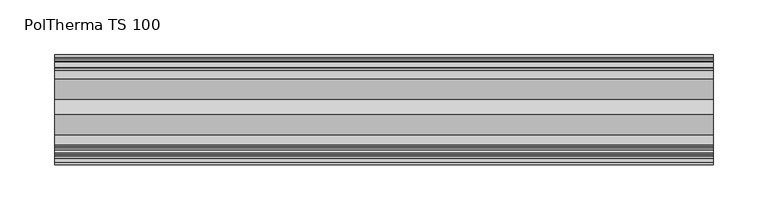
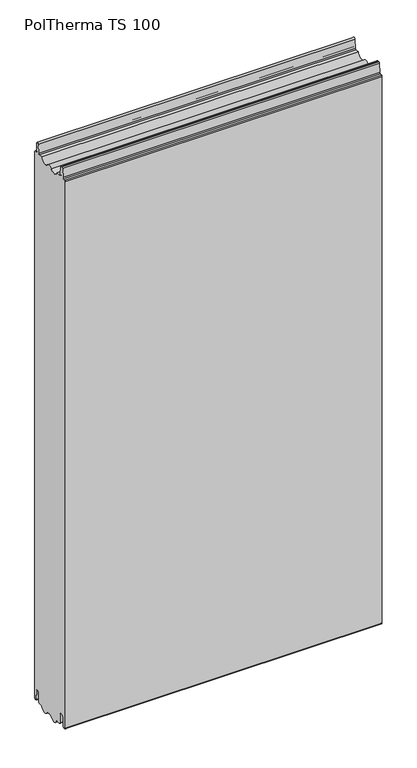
"""IFC4 building model written with IfcOpenShell, lengths in millimetres: plate geometry, Europanels_Poltherma TS_Hz : PolTherma TS 100."""

import ifcopenshell
import ifcopenshell.guid

model = None  # the IFC model being written
_history = None  # IfcOwnerHistory: only IFC2X3 demands one
_inside = {}  # id of a spatial element -> (the spatial element, [elements in it])
_under = {}  # id of a project, library or spatial element -> (it, [spatial elements below it])
_declared = {}  # id of a project -> (the project, [libraries it declares])
_typed = {}  # id of a type object -> (the type object, [elements of that type])
_made_of = {}  # id of a material, layer set ... -> (it, [elements and type objects made of it])


def new_model(schema):
    """Start an empty IFC model of exactly this schema.

    Asked for "IFC4X3", IfcOpenShell would pick the latest addendum, in which some entities
    have other attributes; the version numbers below select the first issue.
    IFC2X3 requires an IfcOwnerHistory on every rooted entity: one is made here for all.
    """
    global model, _history
    if schema == "IFC4X3":
        model = ifcopenshell.file(schema_version=(4, 3, 0, 0))
    else:
        model = ifcopenshell.file(schema=schema)
    _inside.clear()
    _under.clear()
    _declared.clear()
    _typed.clear()
    _made_of.clear()
    _history = None
    if model.schema == "IFC2X3":
        org = make("IfcOrganization", Name="unknown")
        user = make(
            "IfcPersonAndOrganization",
            ThePerson=make("IfcPerson", FamilyName="unknown"),
            TheOrganization=org,
        )
        app = make(
            "IfcApplication",
            ApplicationDeveloper=org,
            Version="unknown",
            ApplicationFullName="unknown",
            ApplicationIdentifier="unknown",
        )
        _history = make(
            "IfcOwnerHistory",
            OwningUser=user,
            OwningApplication=app,
            ChangeAction="ADDED",
            CreationDate=0,
        )
    return model


def make(cls, **values):
    """One entity of the class cls with the attributes given. An attribute that is None is left unset."""
    return model.create_entity(
        cls, **{name: value for name, value in values.items() if value is not None}
    )


def rooted(cls, **values):
    """An entity with a GlobalId (a new one), such as an element, a storey or a relation."""
    return make(cls, GlobalId=ifcopenshell.guid.new(), OwnerHistory=_history, **values)


def si_unit(unit_type, name, prefix=None):
    """IfcSIUnit, for example si_unit("LENGTHUNIT", "METRE", prefix="MILLI")."""
    return make("IfcSIUnit", UnitType=unit_type, Prefix=prefix, Name=name)


def assignment(units):
    """IfcUnitAssignment: the units of a project."""
    return None if units is None else make("IfcUnitAssignment", Units=units)


def point(xyz):
    """IfcCartesianPoint."""
    return None if xyz is None else make("IfcCartesianPoint", Coordinates=xyz)


def direction(xyz):
    """IfcDirection."""
    return None if xyz is None else make("IfcDirection", DirectionRatios=xyz)


def frame(location, z_axis=None, x_axis=None):
    """IfcAxis2Placement3D, a coordinate frame: its origin and axes. An axis left out is left unset."""
    return make(
        "IfcAxis2Placement3D",
        Location=point(location),
        Axis=direction(z_axis),
        RefDirection=direction(x_axis),
    )


def frame_2d(location, x_axis=None):
    """IfcAxis2Placement2D, a coordinate frame in the plane: its origin and x axis."""
    return make(
        "IfcAxis2Placement2D", Location=point(location), RefDirection=direction(x_axis)
    )


def origin():
    """The frame at (0, 0, 0) with its axes left unset."""
    return frame((0.0, 0.0, 0.0))


def place(relative_to, where):
    """IfcLocalPlacement: puts the frame where relative to a parent placement (None: the world)."""
    return make(
        "IfcLocalPlacement", PlacementRelTo=relative_to, RelativePlacement=where
    )


def context(
    kind, dimensions, precision=None, world=None, true_north=None, identifier=None
):
    """IfcGeometricRepresentationContext, for example the 3D "Model" context."""
    return make(
        "IfcGeometricRepresentationContext",
        ContextIdentifier=identifier,
        ContextType=kind,
        CoordinateSpaceDimension=dimensions,
        Precision=precision,
        WorldCoordinateSystem=world,
        TrueNorth=true_north,
    )


def project(units=None, contexts=None):
    """IfcProject with its units and contexts."""
    return rooted(
        "IfcProject",
        Name="project",
        RepresentationContexts=contexts,
        UnitsInContext=assignment(units),
    )


def spatial(cls, under=None, at=None, **own):
    """A site, building, storey or space (cls), placed at a placement, below another one or the project."""
    s = rooted(cls, ObjectPlacement=at, **own)
    if under is not None:
        _under.setdefault(under.id(), (under, []))[1].append(s)
    return s


def polyline(points):
    """IfcPolyline through the points."""
    return make("IfcPolyline", Points=[point(p) for p in points])


def circle_curve(where, radius):
    """IfcCircle in the frame where."""
    return make("IfcCircle", Position=where, Radius=radius)


def trimmed(basis, trim1, trim2, sense, master):
    """IfcTrimmedCurve: the piece of a basis curve between two trims."""
    return make(
        "IfcTrimmedCurve",
        BasisCurve=basis,
        Trim1=trim1,
        Trim2=trim2,
        SenseAgreement=sense,
        MasterRepresentation=master,
    )


def segment(curve, same_sense, transition):
    """IfcCompositeCurveSegment."""
    return make(
        "IfcCompositeCurveSegment",
        Transition=transition,
        SameSense=same_sense,
        ParentCurve=curve,
    )


def composite_curve(segments, self_intersect=None):
    """IfcCompositeCurve: segments joined end to end."""
    return make("IfcCompositeCurve", Segments=segments, SelfIntersect=self_intersect)


def outline(outer, holes=None, kind="AREA"):
    """IfcArbitraryClosedProfileDef: a profile drawn as a closed curve; with holes, ...WithVoids."""
    if holes is None:
        return make("IfcArbitraryClosedProfileDef", ProfileType=kind, OuterCurve=outer)
    return make(
        "IfcArbitraryProfileDefWithVoids",
        ProfileType=kind,
        OuterCurve=outer,
        InnerCurves=holes,
    )


def extrude(swept, where, along, depth):
    """IfcExtrudedAreaSolid: the profile swept, set in the frame where, extruded along a direction by depth."""
    return make(
        "IfcExtrudedAreaSolid",
        SweptArea=swept,
        Position=where,
        ExtrudedDirection=direction(along),
        Depth=depth,
    )


def shape(context_of_items, identifier, shape_type, items):
    """IfcShapeRepresentation: the items that make up one representation, for example the "Body"."""
    return make(
        "IfcShapeRepresentation",
        ContextOfItems=context_of_items,
        RepresentationIdentifier=identifier,
        RepresentationType=shape_type,
        Items=items,
    )


def source(mapping_origin, context_of_items, identifier, shape_type, items):
    """IfcRepresentationMap: a shape defined once, which mapped items show again and again."""
    return make(
        "IfcRepresentationMap",
        MappingOrigin=mapping_origin,
        MappedRepresentation=shape(context_of_items, identifier, shape_type, items),
    )


def transform(
    local_origin,
    x_axis=None,
    y_axis=None,
    z_axis=None,
    scale=None,
    scale2=None,
    scale3=None,
    uniform=True,
):
    """IfcCartesianTransformationOperator3D, or its non-uniform kind. x_axis, y_axis, z_axis: its Axis1, 2, 3."""
    if uniform:
        return make(
            "IfcCartesianTransformationOperator3D",
            Axis1=direction(x_axis),
            Axis2=direction(y_axis),
            LocalOrigin=point(local_origin),
            Scale=scale,
            Axis3=direction(z_axis),
        )
    return make(
        "IfcCartesianTransformationOperator3DnonUniform",
        Axis1=direction(x_axis),
        Axis2=direction(y_axis),
        LocalOrigin=point(local_origin),
        Scale=scale,
        Axis3=direction(z_axis),
        Scale2=scale2,
        Scale3=scale3,
    )


def mapped(mapping_source, mapping_target):
    """IfcMappedItem: shows the shape of a source again, moved by a transform."""
    return make(
        "IfcMappedItem", MappingSource=mapping_source, MappingTarget=mapping_target
    )


def made_of(thing, what):
    """Note that an element or type object is made of a material, layer set ...; save() writes the relation."""
    if what is not None:
        _made_of.setdefault(what.id(), (what, []))[1].append(thing)
    return thing


def element(
    cls,
    number,
    at=None,
    inside=None,
    cuts=None,
    type_object=None,
    material=None,
    context=None,
    identifier="Body",
    shape_type=None,
    held_by="IfcProductDefinitionShape",
    body=None,
    shapes=None,
    **own,
):
    """One element of the class cls, such as IfcWall. Its Tag is "e" and its number.

    at: its placement. inside: the storey or other place that contains it. cuts: it is an
    opening in that element (IfcRelVoidsElement). A single representation is given by context,
    identifier, shape_type and body (its items); several are given by shapes. held_by: the class
    of the entity that holds the representations. save() writes the other relations.
    """
    e = rooted(cls, Tag="e%d" % number, ObjectPlacement=at, **own)
    if body is not None:
        shapes = [shape(context, identifier, shape_type, body)]
    if shapes is not None:
        e.Representation = make(held_by, Representations=shapes)
    if inside is not None:
        _inside.setdefault(inside.id(), (inside, []))[1].append(e)
    if cuts is not None:
        rooted(
            "IfcRelVoidsElement", RelatingBuildingElement=cuts, RelatedOpeningElement=e
        )
    if type_object is not None:
        _typed.setdefault(type_object.id(), (type_object, []))[1].append(e)
    return made_of(e, material)


def aggregate(whole, parts):
    """IfcRelAggregates: a whole, such as a stair, and the parts it consists of."""
    return rooted("IfcRelAggregates", RelatingObject=whole, RelatedObjects=parts)


def save(model, path):
    """Write the relations noted so far, then the file.

    IfcRelAggregates (storeys below a building ...), IfcRelContainedInSpatialStructure (elements
    in a storey), IfcRelDefinesByType, IfcRelAssociatesMaterial and IfcRelDeclares: one each for
    every whole, place, type object, material and project.
    """
    for whole, parts in _under.values():
        aggregate(whole, parts)
    for where, things in _inside.values():
        rooted(
            "IfcRelContainedInSpatialStructure",
            RelatedElements=things,
            RelatingStructure=where,
        )
    for kind, things in _typed.values():
        rooted("IfcRelDefinesByType", RelatedObjects=things, RelatingType=kind)
    for what, things in _made_of.values():
        rooted("IfcRelAssociatesMaterial", RelatedObjects=things, RelatingMaterial=what)
    for by, libraries in _declared.values():
        rooted("IfcRelDeclares", RelatingContext=by, RelatedDefinitions=libraries)
    model.write(path)


def poltherma_ts_100_6033b162(model_context):
    return source(origin(), model_context, "Body", "SweptSolid", [
        extrude(outline(composite_curve([segment(trimmed(circle_curve(frame_2d((-48.0, 1096.5011047)), 2.0), [point((-50.0, 1096.5011047))], [point((-48.0, 1098.5011047))], False, "CARTESIAN"), True, "CONTINUOUS"), segment(polyline([(-48.0, 1098.5011047), (-44.244573, 1098.5011047)]), True, "CONTINUOUS"), segment(trimmed(circle_curve(frame_2d((-44.244573, 1100.5011047)), 2.0), [point((-44.244573, 1098.5011047))], [point((-42.2483736, 1100.3778643))], True, "CARTESIAN"), True, "CONTINUOUS"), segment(polyline([(-42.2483736, 1100.3778643), (-41.1836192, 1117.624345)]), True, "CONTINUOUS"), segment(trimmed(circle_curve(frame_2d((-39.1874198, 1117.5011047)), 2.0), [point((-41.1836192, 1117.624345))], [point((-39.1874198, 1119.5011047))], False, "CARTESIAN"), True, "CONTINUOUS"), segment(polyline([(-39.1874198, 1119.5011047), (-36.4480373, 1119.5011047)]), True, "CONTINUOUS"), segment(trimmed(circle_curve(frame_2d((-36.4480373, 1117.5011047)), 2.0), [point((-36.4480373, 1119.5011047))], [point((-34.4498501, 1117.5862394))], False, "CARTESIAN"), True, "CONTINUOUS"), segment(polyline([(-34.4498501, 1117.5862394), (-33.7101357, 1100.2244834)]), True, "CONTINUOUS"), segment(trimmed(circle_curve(frame_2d((-31.9117672, 1100.3011047)), 1.8), [point((-33.7101357, 1100.2244834))], [point((-31.9117672, 1098.5011047))], True, "CARTESIAN"), True, "CONTINUOUS"), segment(polyline([(-31.9117672, 1098.5011047), (-22.9234285, 1098.5011047)]), True, "CONTINUOUS"), segment(trimmed(circle_curve(frame_2d((-12.3, 1101.354658)), 11.0), [point((-22.9234285, 1098.5011047))], [point((-4.05, 1094.0788419))], True, "CARTESIAN"), True, "CONTINUOUS"), segment(trimmed(circle_curve(frame_2d((2.7, 1088.1259015)), 9.0), [point((-4.05, 1094.0788419))], [point((9.45, 1094.0788419))], False, "CARTESIAN"), True, "CONTINUOUS"), segment(trimmed(circle_curve(frame_2d((17.7, 1101.354658)), 11.0), [point((9.45, 1094.0788419))], [point((28.3234285, 1098.5011047))], True, "CARTESIAN"), True, "CONTINUOUS"), segment(polyline([(28.3234285, 1098.5011047), (36.113894, 1098.5011047)]), True, "CONTINUOUS"), segment(trimmed(circle_curve(frame_2d((36.113894, 1100.5011047)), 2.0), [point((36.113894, 1098.5011047))], [point((38.1120505, 1100.4152514))], True, "CARTESIAN"), True, "CONTINUOUS"), segment(polyline([(38.1120505, 1100.4152514), (38.8418822, 1117.4014159)]), True, "CONTINUOUS"), segment(trimmed(circle_curve(frame_2d((41.019533, 1117.3078504)), 2.1796599), [point((38.8418822, 1117.4014159))], [point((43.1949638, 1117.4435621))], False, "CARTESIAN"), True, "CONTINUOUS"), segment(polyline([(43.1949638, 1117.4435621), (44.2596673, 1100.3765791)]), True, "CONTINUOUS"), segment(trimmed(circle_curve(frame_2d((46.2557869, 1100.5011047)), 2.0), [point((44.2596673, 1100.3765791))], [point((46.2557869, 1098.5011047))], True, "CARTESIAN"), True, "CONTINUOUS"), segment(polyline([(46.2557869, 1098.5011047), (48.0, 1098.5011047)]), True, "CONTINUOUS"), segment(trimmed(circle_curve(frame_2d((48.0, 1096.5011047)), 2.0), [point((48.0, 1098.5011047))], [point((50.0, 1096.5011047))], False, "CARTESIAN"), True, "CONTINUOUS"), segment(polyline([(50.0, 1096.5011047), (50.0, 3.8418901)]), True, "CONTINUOUS"), segment(trimmed(circle_curve(frame_2d((47.632528, 3.8418901)), 2.367472), [point((50.0, 3.8418901))], [point((45.2685131, 3.7139946))], False, "CARTESIAN"), True, "CONTINUOUS"), segment(polyline([(45.2685131, 3.7139946), (44.3287441, 21.084649)]), True, "CONTINUOUS"), segment(trimmed(circle_curve(frame_2d((41.0497127, 20.9072503)), 3.2838266), [point((44.3287441, 21.084649))], [point((37.7713293, 21.0962469))], True, "CARTESIAN"), True, "CONTINUOUS"), segment(polyline([(37.7713293, 21.0962469), (36.7366349, 3.1481762)]), True, "CONTINUOUS"), segment(trimmed(circle_curve(frame_2d((34.9895357, 3.2488953)), 1.75), [point((36.7366349, 3.1481762))], [point((34.9895357, 1.4988953))], False, "CARTESIAN"), True, "CONTINUOUS"), segment(polyline([(34.9895357, 1.4988953), (27.5267156, 1.4988953)]), True, "CONTINUOUS"), segment(trimmed(circle_curve(frame_2d((17.7, 3.3524487)), 10.0), [point((27.5267156, 1.4988953))], [point((10.2, -3.2619295))], False, "CARTESIAN"), True, "CONTINUOUS"), segment(trimmed(circle_curve(frame_2d((2.7, -9.8763078)), 10.0), [point((10.2, -3.2619295))], [point((-4.8, -3.2619295))], True, "CARTESIAN"), True, "CONTINUOUS"), segment(trimmed(circle_curve(frame_2d((-12.3, 3.3524487)), 10.0), [point((-4.8, -3.2619295))], [point((-22.1267156, 1.4988953))], False, "CARTESIAN"), True, "CONTINUOUS"), segment(polyline([(-22.1267156, 1.4988953), (-30.5507777, 1.4988953)]), True, "CONTINUOUS"), segment(trimmed(circle_curve(frame_2d((-30.5507777, 3.2988953)), 1.8), [point((-30.5507777, 1.4988953))], [point((-32.3477941, 3.1952985))], False, "CARTESIAN"), True, "CONTINUOUS"), segment(polyline([(-32.3477941, 3.1952985), (-33.3842966, 21.1747334)]), True, "CONTINUOUS"), segment(trimmed(circle_curve(frame_2d((-36.3793238, 21.0020721)), 3.0), [point((-33.3842966, 21.1747334))], [point((-36.3793238, 24.0020721))], True, "CARTESIAN"), True, "CONTINUOUS"), segment(polyline([(-36.3793238, 24.0020721), (-39.3209015, 24.0020721)]), True, "CONTINUOUS"), segment(trimmed(circle_curve(frame_2d((-39.3209015, 21.0020721)), 3.0), [point((-39.3209015, 24.0020721))], [point((-42.3165207, 21.1641379))], True, "CARTESIAN"), True, "CONTINUOUS"), segment(polyline([(-42.3165207, 21.1641379), (-43.2780726, 3.3908514)]), True, "CONTINUOUS"), segment(trimmed(circle_curve(frame_2d((-45.2751521, 3.4988953)), 2.0), [point((-43.2780726, 3.3908514))], [point((-45.2751521, 1.4988953))], False, "CARTESIAN"), True, "CONTINUOUS"), segment(polyline([(-45.2751521, 1.4988953), (-48.0, 1.4988953)]), True, "CONTINUOUS"), segment(trimmed(circle_curve(frame_2d((-48.0, 3.4988953)), 2.0), [point((-48.0, 1.4988953))], [point((-50.0, 3.4988953))], False, "CARTESIAN"), True, "CONTINUOUS"), segment(polyline([(-50.0, 3.4988953), (-50.0, 1096.5011047)]), True, "CONTINUOUS")], self_intersect=False)), frame((-300.0, 0.0, 0.0), z_axis=(1.0, 0.0, 0.0), x_axis=(0.0, 1.0, 0.0)), (0.0, 0.0, 1.0), 600.0),
    ])


if __name__ == "__main__":
    model = new_model("IFC4")
    model_context = context("Model", 3, world=origin())
    ifc_project = project(units=[si_unit("LENGTHUNIT", "METRE", prefix="MILLI")], contexts=[model_context])
    site = spatial("IfcSite", under=ifc_project)
    building = spatial("IfcBuilding", under=site)
    placement = place(None, origin())
    poltherma_ts_100_shape = poltherma_ts_100_6033b162(model_context)
    element("IfcPlate", 1, ObjectType="Europanels_Poltherma TS_Hz : PolTherma TS 100", at=placement, inside=building, context=model_context, shape_type="MappedRepresentation", body=[
        mapped(poltherma_ts_100_shape, transform((0.0, 0.0, 0.0), x_axis=(1.0, 0.0, 0.0), y_axis=(0.0, 1.0, 0.0), z_axis=(0.0, 0.0, 1.0))),
    ])
    save(model, "model.ifc")
